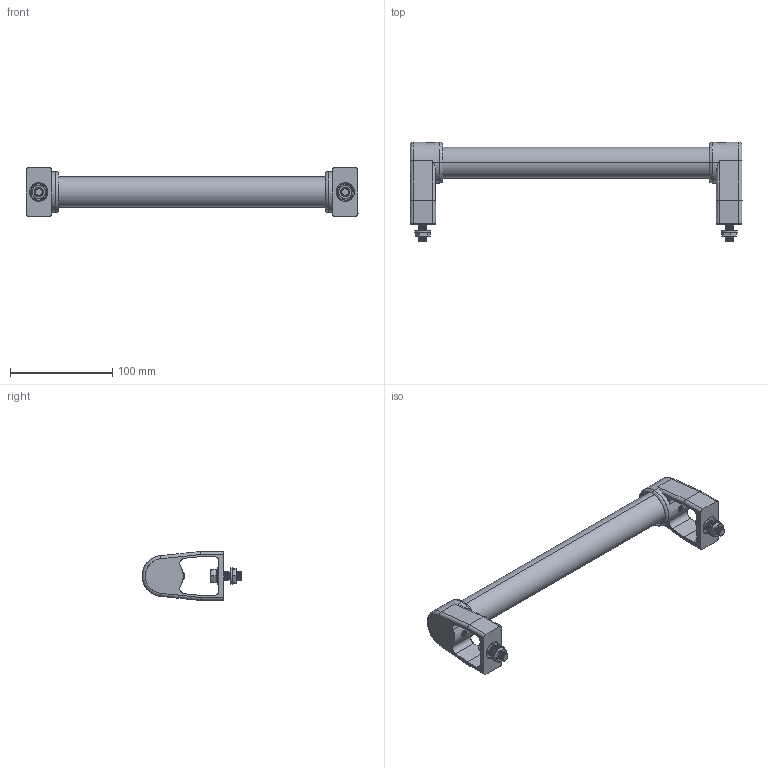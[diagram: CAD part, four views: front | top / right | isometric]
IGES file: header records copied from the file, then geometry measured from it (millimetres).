
Start section: SolidWorks IGES file using analytic representation for surfaces
Global section: file name: C:\Users\IanO\Desktop\Temp File\CADMASTER UPLOADING\78800_v2\78800_v2_20171221_IGES\78800.W0300.igs; native system: SolidWorks 2017; preprocessor: SolidWorks 2017; author: IanO; date: 180428.100706; units: millimetre
Bounding box: 325 x 97.4 x 48 mm (x, y, z)
Surface area: 96274.1 mm2 (no closed solid volume)
Topology: 0 solids, 0 shells, 486 faces, 5524 edges, 5520 vertices
Faces by surface type: revolution 372, bspline 114
